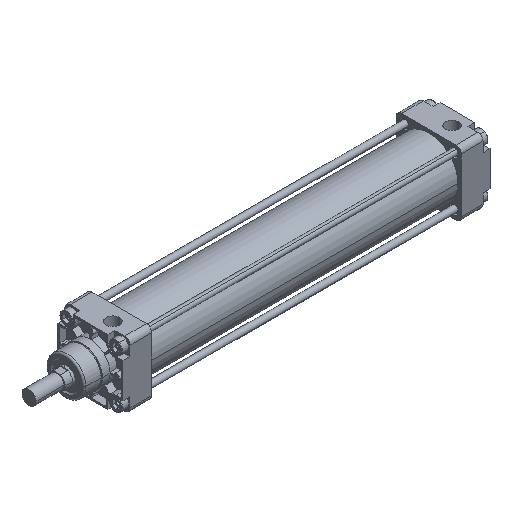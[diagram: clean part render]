
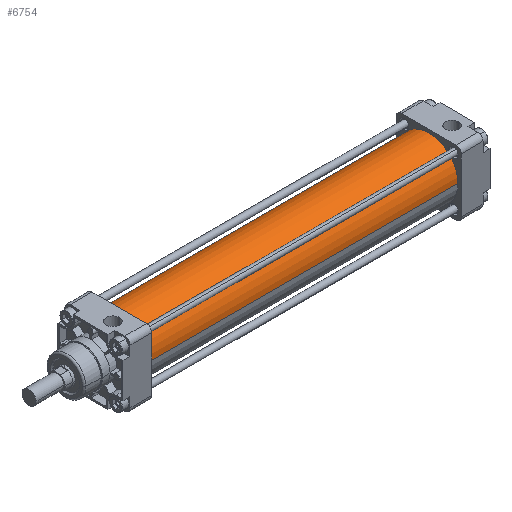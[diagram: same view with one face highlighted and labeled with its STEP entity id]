
A CAD part, isometric view. The second image highlights one B-rep face of the part: STEP entity #6754.
In plain terms, the highlighted cylindrical face has radius 33.5 mm (diameter 67 mm), a partial arc.
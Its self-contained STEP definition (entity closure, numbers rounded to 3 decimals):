
#6391=CARTESIAN_POINT('Vertex',(355.,-33.5,0.)) ;
#6393=CARTESIAN_POINT('Vertex',(355.,33.5,0.)) ;
#6396=CARTESIAN_POINT('Axis2P3D Location',(355.,0.,0.)) ;
#6724=CARTESIAN_POINT('Axis2P3D Location',(177.5,0.,0.)) ;
#6729=CARTESIAN_POINT('Line Origine',(177.5,33.5,0.)) ;
#6733=CARTESIAN_POINT('Vertex',(0.,33.5,0.)) ;
#6736=CARTESIAN_POINT('Axis2P3D Location',(0.,0.,0.)) ;
#6740=CARTESIAN_POINT('Vertex',(0.,-33.5,0.)) ;
#6743=CARTESIAN_POINT('Line Origine',(177.5,-33.5,0.)) ;
#6397=DIRECTION('Axis2P3D Direction',(1.,0.,0.)) ;
#6725=DIRECTION('Axis2P3D Direction',(1.,0.,0.)) ;
#6726=DIRECTION('Axis2P3D XDirection',(0.,1.,0.)) ;
#6730=DIRECTION('Vector Direction',(1.,0.,0.)) ;
#6737=DIRECTION('Axis2P3D Direction',(1.,0.,0.)) ;
#6744=DIRECTION('Vector Direction',(1.,0.,0.)) ;
#6398=AXIS2_PLACEMENT_3D('Circle Axis2P3D',#6396,#6397,$) ;
#6727=AXIS2_PLACEMENT_3D('Cylinder Axis2P3D',#6724,#6725,#6726) ;
#6738=AXIS2_PLACEMENT_3D('Circle Axis2P3D',#6736,#6737,$) ;
#6749=ORIENTED_EDGE('',*,*,#6735,.F.) ;
#6750=ORIENTED_EDGE('',*,*,#6742,.T.) ;
#6751=ORIENTED_EDGE('',*,*,#6747,.T.) ;
#6752=ORIENTED_EDGE('',*,*,#6400,.F.) ;
#6731=VECTOR('Line Direction',#6730,1.) ;
#6745=VECTOR('Line Direction',#6744,1.) ;
#6754=ADVANCED_FACE('PartBody',(#6753),#6728,.T.) ;
#6399=CIRCLE('generated circle',#6398,33.5) ;
#6739=CIRCLE('generated circle',#6738,33.5) ;
#6728=CYLINDRICAL_SURFACE('generated cylinder',#6727,33.5) ;
#6400=EDGE_CURVE('',#6394,#6392,#6399,.T.) ;
#6735=EDGE_CURVE('',#6734,#6394,#6732,.T.) ;
#6742=EDGE_CURVE('',#6734,#6741,#6739,.T.) ;
#6747=EDGE_CURVE('',#6741,#6392,#6746,.T.) ;
#6748=EDGE_LOOP('',(#6749,#6750,#6751,#6752)) ;
#6753=FACE_OUTER_BOUND('',#6748,.T.) ;
#6732=LINE('Line',#6729,#6731) ;
#6746=LINE('Line',#6743,#6745) ;
#6392=VERTEX_POINT('',#6391) ;
#6394=VERTEX_POINT('',#6393) ;
#6734=VERTEX_POINT('',#6733) ;
#6741=VERTEX_POINT('',#6740) ;
